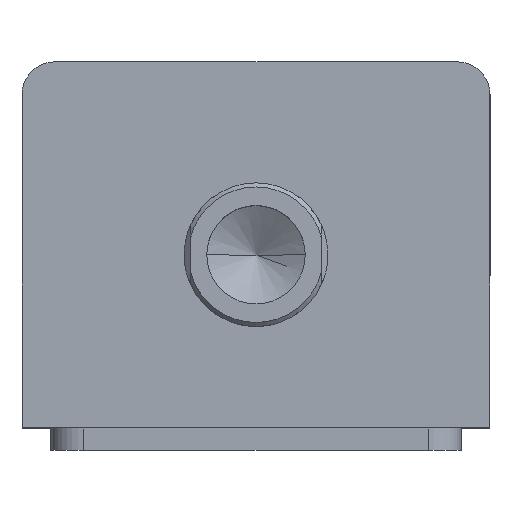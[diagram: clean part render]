
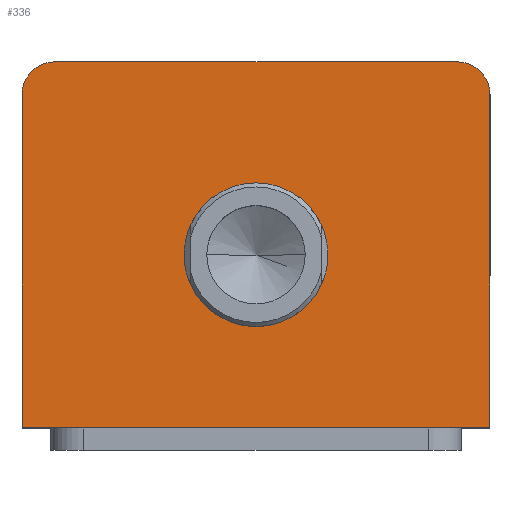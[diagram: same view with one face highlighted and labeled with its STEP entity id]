
A CAD part, top view. The second image highlights one B-rep face of the part: STEP entity #336.
In plain terms, the highlighted planar face has unit normal (0, 0, 1).
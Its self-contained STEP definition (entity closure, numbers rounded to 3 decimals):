
#303 = CIRCLE ( 'NONE', #2839, 8. ) ;
#336 = ADVANCED_FACE ( 'NONE', ( #1250, #1247 ), #920, .T. ) ;
#508 = CARTESIAN_POINT ( 'NONE',  ( -57., 36.5, 157. ) ) ;
#512 = CARTESIAN_POINT ( 'NONE',  ( 57., 36.5, 157. ) ) ;
#526 = DIRECTION ( 'NONE',  ( 0., 1., 0. ) ) ;
#527 = CARTESIAN_POINT ( 'NONE',  ( 57., 44.5, 157. ) ) ;
#635 = DIRECTION ( 'NONE',  ( 0., -1., 0. ) ) ;
#636 = CARTESIAN_POINT ( 'NONE',  ( -57., 44.5, 157. ) ) ;
#646 = DIRECTION ( 'NONE',  ( 1., 0., 0. ) ) ;
#647 = DIRECTION ( 'NONE',  ( 0., 0., 1. ) ) ;
#648 = CARTESIAN_POINT ( 'NONE',  ( -49., 36.5, 157. ) ) ;
#650 = CARTESIAN_POINT ( 'NONE',  ( -49., 44.5, 157. ) ) ;
#670 = CARTESIAN_POINT ( 'NONE',  ( 49., 44.5, 157. ) ) ;
#699 = CARTESIAN_POINT ( 'NONE',  ( -17.5, -2.5, 157. ) ) ;
#705 = CARTESIAN_POINT ( 'NONE',  ( -57., -44.5, 157. ) ) ;
#713 = CARTESIAN_POINT ( 'NONE',  ( 17.5, -2.5, 157. ) ) ;
#725 = EDGE_CURVE ( 'NONE', #1709, #1686, #303, .T. ) ;
#841 = EDGE_CURVE ( 'NONE', #1686, #1689, #1885, .T. ) ;
#863 = DIRECTION ( 'NONE',  ( 1., 0., 0. ) ) ;
#902 = CARTESIAN_POINT ( 'NONE',  ( 0., 0., 157. ) ) ;
#920 = PLANE ( 'NONE',  #2730 ) ;
#939 = DIRECTION ( 'NONE',  ( 0., 0., 1. ) ) ;
#1233 = EDGE_CURVE ( 'NONE', #1669, #1670, #1883, .T. ) ;
#1236 = EDGE_CURVE ( 'NONE', #1670, #1669, #1896, .T. ) ;
#1247 = FACE_OUTER_BOUND ( 'NONE', #1770, .T. ) ;
#1250 = FACE_BOUND ( 'NONE', #1787, .T. ) ;
#1522 = ORIENTED_EDGE ( 'NONE', *, *, #1236, .F. ) ;
#1523 = ORIENTED_EDGE ( 'NONE', *, *, #1233, .F. ) ;
#1524 = ORIENTED_EDGE ( 'NONE', *, *, #841, .T. ) ;
#1525 = ORIENTED_EDGE ( 'NONE', *, *, #1858, .T. ) ;
#1526 = ORIENTED_EDGE ( 'NONE', *, *, #1862, .T. ) ;
#1527 = ORIENTED_EDGE ( 'NONE', *, *, #3482, .T. ) ;
#1528 = ORIENTED_EDGE ( 'NONE', *, *, #2622, .T. ) ;
#1529 = ORIENTED_EDGE ( 'NONE', *, *, #725, .T. ) ;
#1667 = VERTEX_POINT ( 'NONE', #2321 ) ;
#1669 = VERTEX_POINT ( 'NONE', #699 ) ;
#1670 = VERTEX_POINT ( 'NONE', #713 ) ;
#1672 = VERTEX_POINT ( 'NONE', #705 ) ;
#1686 = VERTEX_POINT ( 'NONE', #670 ) ;
#1689 = VERTEX_POINT ( 'NONE', #650 ) ;
#1709 = VERTEX_POINT ( 'NONE', #512 ) ;
#1712 = VERTEX_POINT ( 'NONE', #508 ) ;
#1770 = EDGE_LOOP ( 'NONE', ( #1524, #1525, #1526, #1527, #1528, #1529 ) ) ;
#1787 = EDGE_LOOP ( 'NONE', ( #1522, #1523 ) ) ;
#1858 = EDGE_CURVE ( 'NONE', #1689, #1712, #1910, .T. ) ;
#1862 = EDGE_CURVE ( 'NONE', #1712, #1672, #1916, .T. ) ;
#1883 = CIRCLE ( 'NONE', #2851, 17.5 ) ;
#1885 = LINE ( 'NONE', #2437, #1888 ) ;
#1888 = VECTOR ( 'NONE', #2435, 1000. ) ;
#1896 = CIRCLE ( 'NONE', #2853, 17.5 ) ;
#1910 = CIRCLE ( 'NONE', #2860, 8. ) ;
#1916 = LINE ( 'NONE', #636, #1919 ) ;
#1919 = VECTOR ( 'NONE', #635, 1000. ) ;
#1988 = LINE ( 'NONE', #527, #1991 ) ;
#1991 = VECTOR ( 'NONE', #526, 1000. ) ;
#2107 = LINE ( 'NONE', #3172, #2113 ) ;
#2113 = VECTOR ( 'NONE', #3171, 1000. ) ;
#2321 = CARTESIAN_POINT ( 'NONE',  ( 57., -44.5, 157. ) ) ;
#2405 = DIRECTION ( 'NONE',  ( 1., 0., 0. ) ) ;
#2407 = DIRECTION ( 'NONE',  ( 0., 0., 1. ) ) ;
#2408 = CARTESIAN_POINT ( 'NONE',  ( 0., -2.5, 157. ) ) ;
#2419 = DIRECTION ( 'NONE',  ( 1., 0., 0. ) ) ;
#2420 = DIRECTION ( 'NONE',  ( 0., 0., 1. ) ) ;
#2421 = CARTESIAN_POINT ( 'NONE',  ( 0., -2.5, 157. ) ) ;
#2435 = DIRECTION ( 'NONE',  ( -1., 0., 0. ) ) ;
#2437 = CARTESIAN_POINT ( 'NONE',  ( -57., 44.5, 157. ) ) ;
#2555 = DIRECTION ( 'NONE',  ( 1., 0., 0. ) ) ;
#2556 = DIRECTION ( 'NONE',  ( 0., 0., 1. ) ) ;
#2557 = CARTESIAN_POINT ( 'NONE',  ( 49., 36.5, 157. ) ) ;
#2622 = EDGE_CURVE ( 'NONE', #1667, #1709, #1988, .T. ) ;
#2730 = AXIS2_PLACEMENT_3D ( 'NONE', #902, #939, #863 ) ;
#2839 = AXIS2_PLACEMENT_3D ( 'NONE', #2557, #2556, #2555 ) ;
#2851 = AXIS2_PLACEMENT_3D ( 'NONE', #2421, #2420, #2419 ) ;
#2853 = AXIS2_PLACEMENT_3D ( 'NONE', #2408, #2407, #2405 ) ;
#2860 = AXIS2_PLACEMENT_3D ( 'NONE', #648, #647, #646 ) ;
#3171 = DIRECTION ( 'NONE',  ( 1., 0., 0. ) ) ;
#3172 = CARTESIAN_POINT ( 'NONE',  ( -57., -44.5, 157. ) ) ;
#3482 = EDGE_CURVE ( 'NONE', #1672, #1667, #2107, .T. ) ;
